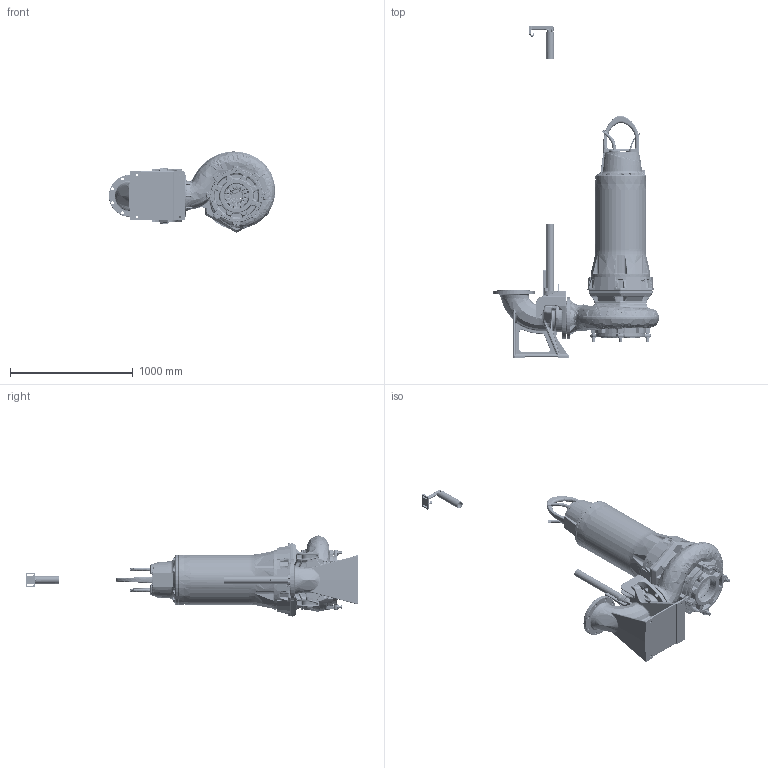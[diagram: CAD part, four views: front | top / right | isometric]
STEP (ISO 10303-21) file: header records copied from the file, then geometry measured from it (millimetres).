
FILE_DESCRIPTION (( 'STEP AP214' ), '1' );
FILE_NAME ('SE5 CFP 205J-CB2 Wet Well.STEP', '2020-09-23T11:46:34', ( '' ), ( '' ), 'SwSTEP 2.0', 'SolidWorks 2017', '' );
FILE_SCHEMA (( 'AUTOMOTIVE_DESIGN' ));
Length unit declared in the file: millimetre
Products named in the file (1): SE5 CFP 205J-CB2 Wet Well
Bounding box: 1353.1 x 2700 x 659.17 mm (x, y, z)
Volume: 87362473.8 mm3; surface area: 10177303.4 mm2
Topology: 52 solids, 53 shells, 8045 faces, 19583 edges, 11366 vertices
Faces by surface type: bspline 2629, cylinder 1882, plane 1470, torus 935, cone 833, sphere 296
Entity records: 519302 total; most frequent: CARTESIAN_POINT 263049, ORIENTED_EDGE 38166, DIRECTION 31139, EDGE_CURVE 19083, AXIS2_PLACEMENT_3D 12967, VERTEX_POINT 11358, EDGE_LOOP 8473, UNCERTAINTY_MEASURE_WITH_UNIT 8099
